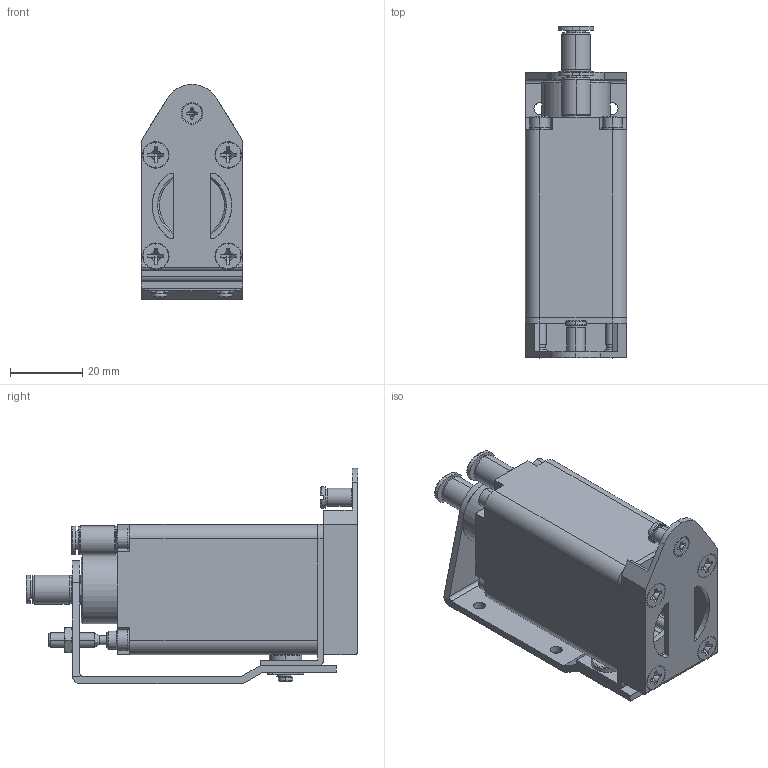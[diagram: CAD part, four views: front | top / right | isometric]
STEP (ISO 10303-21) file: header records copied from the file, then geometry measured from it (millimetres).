
FILE_DESCRIPTION (( 'STEP AP214' ), '1' );
FILE_NAME ('GT-NY10R-4.STEP', '2019-11-26T08:40:18', ( '微软用户' ), ( '微软中国' ), 'SwSTEP 2.0', 'SolidWorks 2016', '' );
FILE_SCHEMA (( 'AUTOMOTIVE_DESIGN' ));
Length unit declared in the file: millimetre
Products named in the file (1): GT-NY10R-4
Bounding box: 28 x 91.8 x 59.5 mm (x, y, z)
Surface area: 27682.7 mm2 (no closed solid volume)
Topology: 0 solids, 29 shells, 751 faces, 1918 edges, 1244 vertices
Faces by surface type: plane 331, cylinder 252, bspline 114, cone 32, torus 22
Entity records: 31212 total; most frequent: CARTESIAN_POINT 9796, ORIENTED_EDGE 3768, DIRECTION 3442, EDGE_CURVE 1908, AXIS2_PLACEMENT_3D 1308, VERTEX_POINT 1244, EDGE_LOOP 851, VECTOR 826
